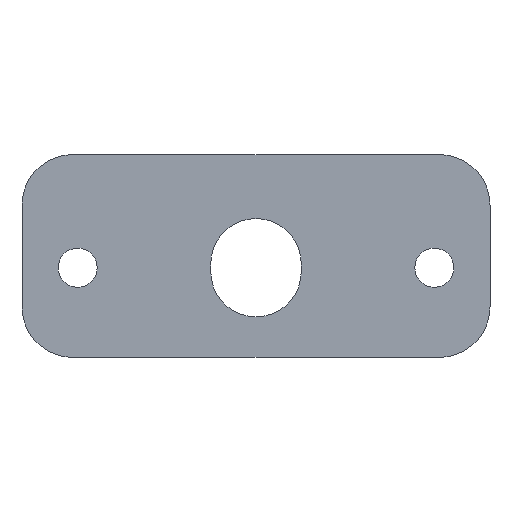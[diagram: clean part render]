
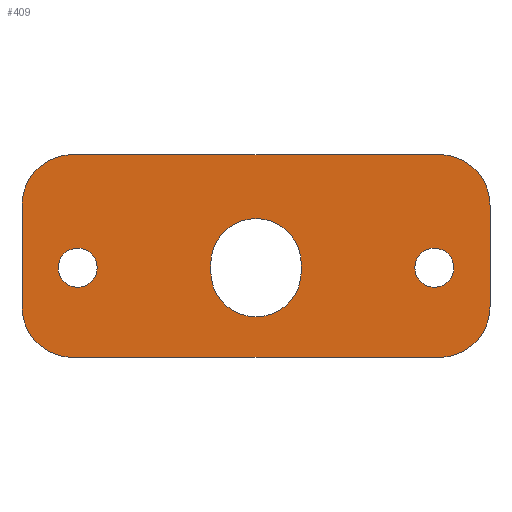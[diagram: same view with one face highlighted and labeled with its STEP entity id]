
A CAD part, front view. The second image highlights one B-rep face of the part: STEP entity #409.
In plain terms, the highlighted planar face has unit normal (0, -1, 0).
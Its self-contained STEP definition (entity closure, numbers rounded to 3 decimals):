
#1 = CARTESIAN_POINT ( 'NONE',  ( 11.75, 0., -3.25 ) ) ;
#6 = CARTESIAN_POINT ( 'NONE',  ( 0., 0., 2.4 ) ) ;
#7 = VERTEX_POINT ( 'NONE', #434 ) ;
#11 = VERTEX_POINT ( 'NONE', #325 ) ;
#12 = LINE ( 'NONE', #456, #281 ) ;
#18 = DIRECTION ( 'NONE',  ( 0., 0., 1. ) ) ;
#21 = VECTOR ( 'NONE', #640, 1000. ) ;
#23 = CARTESIAN_POINT ( 'NONE',  ( -11.75, 0., -6.5 ) ) ;
#30 = LINE ( 'NONE', #257, #21 ) ;
#32 = DIRECTION ( 'NONE',  ( 0., 0., 1. ) ) ;
#39 = CARTESIAN_POINT ( 'NONE',  ( 11.43, 0., 0.5 ) ) ;
#42 = CARTESIAN_POINT ( 'NONE',  ( -15., 0., -6.5 ) ) ;
#47 = CARTESIAN_POINT ( 'NONE',  ( 11.43, 0., -2. ) ) ;
#56 = ORIENTED_EDGE ( 'NONE', *, *, #98, .T. ) ;
#64 = VERTEX_POINT ( 'NONE', #540 ) ;
#67 = DIRECTION ( 'NONE',  ( 0., 1., 0. ) ) ;
#69 = CARTESIAN_POINT ( 'NONE',  ( -11.75, 0., 3.25 ) ) ;
#72 = CARTESIAN_POINT ( 'NONE',  ( -15., 0., 3.25 ) ) ;
#75 = EDGE_CURVE ( 'NONE', #115, #621, #30, .T. ) ;
#79 = CIRCLE ( 'NONE', #414, 1.25 ) ;
#85 = EDGE_CURVE ( 'NONE', #659, #115, #351, .T. ) ;
#88 = DIRECTION ( 'NONE',  ( 0., 1., 0. ) ) ;
#94 = CARTESIAN_POINT ( 'NONE',  ( -2.9, 0., -1. ) ) ;
#97 = LINE ( 'NONE', #140, #428 ) ;
#98 = EDGE_CURVE ( 'NONE', #11, #135, #97, .T. ) ;
#99 = EDGE_LOOP ( 'NONE', ( #339, #268 ) ) ;
#103 = VERTEX_POINT ( 'NONE', #47 ) ;
#105 = FACE_OUTER_BOUND ( 'NONE', #550, .T. ) ;
#107 = DIRECTION ( 'NONE',  ( 1., 0., 0. ) ) ;
#111 = CARTESIAN_POINT ( 'NONE',  ( 15., 0., -6.5 ) ) ;
#115 = VERTEX_POINT ( 'NONE', #94 ) ;
#119 = DIRECTION ( 'NONE',  ( 0., 0., 1. ) ) ;
#123 = DIRECTION ( 'NONE',  ( 0., 0., 1. ) ) ;
#125 = EDGE_LOOP ( 'NONE', ( #190, #561, #450, #326, #452 ) ) ;
#126 = CARTESIAN_POINT ( 'NONE',  ( 11.43, 0., -0.75 ) ) ;
#127 = EDGE_CURVE ( 'NONE', #607, #192, #690, .T. ) ;
#128 = VERTEX_POINT ( 'NONE', #6 ) ;
#129 = DIRECTION ( 'NONE',  ( 0., 0., 1. ) ) ;
#131 = ORIENTED_EDGE ( 'NONE', *, *, #343, .T. ) ;
#132 = CIRCLE ( 'NONE', #221, 1.25 ) ;
#134 = CARTESIAN_POINT ( 'NONE',  ( 11.75, 0., 3.25 ) ) ;
#135 = VERTEX_POINT ( 'NONE', #673 ) ;
#137 = LINE ( 'NONE', #290, #666 ) ;
#139 = VERTEX_POINT ( 'NONE', #267 ) ;
#140 = CARTESIAN_POINT ( 'NONE',  ( -15., 0., 6.5 ) ) ;
#141 = CIRCLE ( 'NONE', #270, 1.25 ) ;
#146 = DIRECTION ( 'NONE',  ( 0., 1., 0. ) ) ;
#160 = CARTESIAN_POINT ( 'NONE',  ( -11.75, 0., -3.25 ) ) ;
#162 = CIRCLE ( 'NONE', #197, 3.25 ) ;
#190 = ORIENTED_EDGE ( 'NONE', *, *, #85, .T. ) ;
#192 = VERTEX_POINT ( 'NONE', #23 ) ;
#197 = AXIS2_PLACEMENT_3D ( 'NONE', #1, #215, #399 ) ;
#198 = EDGE_CURVE ( 'NONE', #217, #11, #623, .T. ) ;
#209 = ORIENTED_EDGE ( 'NONE', *, *, #471, .T. ) ;
#212 = FACE_BOUND ( 'NONE', #628, .T. ) ;
#215 = DIRECTION ( 'NONE',  ( 0., -1., 0. ) ) ;
#217 = VERTEX_POINT ( 'NONE', #670 ) ;
#221 = AXIS2_PLACEMENT_3D ( 'NONE', #447, #307, #129 ) ;
#228 = EDGE_CURVE ( 'NONE', #558, #610, #141, .T. ) ;
#230 = DIRECTION ( 'NONE',  ( 0., 0., 1. ) ) ;
#239 = AXIS2_PLACEMENT_3D ( 'NONE', #492, #88, #547 ) ;
#241 = DIRECTION ( 'NONE',  ( 0., 0., 1. ) ) ;
#242 = DIRECTION ( 'NONE',  ( 0., -1., 0. ) ) ;
#253 = DIRECTION ( 'NONE',  ( 0., 0., 1. ) ) ;
#257 = CARTESIAN_POINT ( 'NONE',  ( -2.9, 0., -0.5 ) ) ;
#267 = CARTESIAN_POINT ( 'NONE',  ( 2.9, 0., -0.5 ) ) ;
#268 = ORIENTED_EDGE ( 'NONE', *, *, #674, .T. ) ;
#270 = AXIS2_PLACEMENT_3D ( 'NONE', #620, #67, #119 ) ;
#273 = ORIENTED_EDGE ( 'NONE', *, *, #335, .T. ) ;
#281 = VECTOR ( 'NONE', #18, 1000. ) ;
#290 = CARTESIAN_POINT ( 'NONE',  ( 2.9, 0., -0.5 ) ) ;
#291 = DIRECTION ( 'NONE',  ( 0., 1., 0. ) ) ;
#307 = DIRECTION ( 'NONE',  ( 0., 1., 0. ) ) ;
#309 = EDGE_CURVE ( 'NONE', #514, #607, #319, .T. ) ;
#319 = LINE ( 'NONE', #42, #331 ) ;
#321 = ORIENTED_EDGE ( 'NONE', *, *, #127, .T. ) ;
#325 = CARTESIAN_POINT ( 'NONE',  ( 11.75, 0., 6.5 ) ) ;
#326 = ORIENTED_EDGE ( 'NONE', *, *, #622, .T. ) ;
#329 = PLANE ( 'NONE',  #644 ) ;
#331 = VECTOR ( 'NONE', #487, 1000. ) ;
#335 = EDGE_CURVE ( 'NONE', #64, #7, #162, .T. ) ;
#339 = ORIENTED_EDGE ( 'NONE', *, *, #228, .T. ) ;
#343 = EDGE_CURVE ( 'NONE', #192, #64, #444, .T. ) ;
#351 = CIRCLE ( 'NONE', #239, 2.9 ) ;
#355 = DIRECTION ( 'NONE',  ( 0., -1., 0. ) ) ;
#368 = CARTESIAN_POINT ( 'NONE',  ( -15., 0., -3.25 ) ) ;
#370 = DIRECTION ( 'NONE',  ( -1., 0., 0. ) ) ;
#382 = CIRCLE ( 'NONE', #566, 1.25 ) ;
#398 = ORIENTED_EDGE ( 'NONE', *, *, #198, .T. ) ;
#399 = DIRECTION ( 'NONE',  ( 0., 0., 1. ) ) ;
#406 = DIRECTION ( 'NONE',  ( 0., 0., 1. ) ) ;
#409 = ADVANCED_FACE ( 'NONE', ( #714, #212, #658, #105 ), #329, .F. ) ;
#414 = AXIS2_PLACEMENT_3D ( 'NONE', #126, #291, #123 ) ;
#417 = DIRECTION ( 'NONE',  ( 0., 1., 0. ) ) ;
#424 = AXIS2_PLACEMENT_3D ( 'NONE', #69, #355, #406 ) ;
#428 = VECTOR ( 'NONE', #370, 1000. ) ;
#434 = CARTESIAN_POINT ( 'NONE',  ( 15., 0., -3.25 ) ) ;
#440 = EDGE_CURVE ( 'NONE', #135, #514, #692, .T. ) ;
#441 = DIRECTION ( 'NONE',  ( 0., 1., 0. ) ) ;
#444 = LINE ( 'NONE', #111, #609 ) ;
#446 = ORIENTED_EDGE ( 'NONE', *, *, #486, .T. ) ;
#447 = CARTESIAN_POINT ( 'NONE',  ( -11.43, 0., -0.75 ) ) ;
#450 = ORIENTED_EDGE ( 'NONE', *, *, #513, .T. ) ;
#452 = ORIENTED_EDGE ( 'NONE', *, *, #695, .T. ) ;
#456 = CARTESIAN_POINT ( 'NONE',  ( 15., 0., 6.5 ) ) ;
#458 = CIRCLE ( 'NONE', #679, 2.9 ) ;
#462 = CARTESIAN_POINT ( 'NONE',  ( -11.43, 0., 0.5 ) ) ;
#469 = CARTESIAN_POINT ( 'NONE',  ( 11.43, 0., -0.75 ) ) ;
#471 = EDGE_CURVE ( 'NONE', #639, #103, #382, .T. ) ;
#473 = CIRCLE ( 'NONE', #646, 2.9 ) ;
#486 = EDGE_CURVE ( 'NONE', #103, #639, #79, .T. ) ;
#487 = DIRECTION ( 'NONE',  ( 0., 0., -1. ) ) ;
#489 = CARTESIAN_POINT ( 'NONE',  ( 0., 0., -0.5 ) ) ;
#492 = CARTESIAN_POINT ( 'NONE',  ( 0., 0., -1. ) ) ;
#498 = CARTESIAN_POINT ( 'NONE',  ( 0., 0., 0. ) ) ;
#507 = DIRECTION ( 'NONE',  ( 0., -1., 0. ) ) ;
#513 = EDGE_CURVE ( 'NONE', #621, #128, #458, .T. ) ;
#514 = VERTEX_POINT ( 'NONE', #72 ) ;
#515 = DIRECTION ( 'NONE',  ( 0., 0., -1. ) ) ;
#527 = CARTESIAN_POINT ( 'NONE',  ( 0., 0., -0.5 ) ) ;
#530 = AXIS2_PLACEMENT_3D ( 'NONE', #160, #507, #669 ) ;
#540 = CARTESIAN_POINT ( 'NONE',  ( 11.75, 0., -6.5 ) ) ;
#547 = DIRECTION ( 'NONE',  ( 0., 0., 1. ) ) ;
#548 = EDGE_CURVE ( 'NONE', #7, #217, #12, .T. ) ;
#550 = EDGE_LOOP ( 'NONE', ( #131, #273, #696, #398, #56, #719, #585, #321 ) ) ;
#558 = VERTEX_POINT ( 'NONE', #462 ) ;
#561 = ORIENTED_EDGE ( 'NONE', *, *, #75, .T. ) ;
#565 = AXIS2_PLACEMENT_3D ( 'NONE', #134, #242, #253 ) ;
#566 = AXIS2_PLACEMENT_3D ( 'NONE', #469, #630, #241 ) ;
#585 = ORIENTED_EDGE ( 'NONE', *, *, #309, .T. ) ;
#593 = CARTESIAN_POINT ( 'NONE',  ( -2.9, 0., -0.5 ) ) ;
#607 = VERTEX_POINT ( 'NONE', #368 ) ;
#609 = VECTOR ( 'NONE', #107, 1000. ) ;
#610 = VERTEX_POINT ( 'NONE', #649 ) ;
#620 = CARTESIAN_POINT ( 'NONE',  ( -11.43, 0., -0.75 ) ) ;
#621 = VERTEX_POINT ( 'NONE', #593 ) ;
#622 = EDGE_CURVE ( 'NONE', #128, #139, #473, .T. ) ;
#623 = CIRCLE ( 'NONE', #565, 3.25 ) ;
#628 = EDGE_LOOP ( 'NONE', ( #209, #446 ) ) ;
#630 = DIRECTION ( 'NONE',  ( 0., 1., 0. ) ) ;
#639 = VERTEX_POINT ( 'NONE', #39 ) ;
#640 = DIRECTION ( 'NONE',  ( 0., 0., 1. ) ) ;
#642 = CARTESIAN_POINT ( 'NONE',  ( 2.9, 0., -1. ) ) ;
#644 = AXIS2_PLACEMENT_3D ( 'NONE', #498, #441, #660 ) ;
#646 = AXIS2_PLACEMENT_3D ( 'NONE', #489, #146, #32 ) ;
#649 = CARTESIAN_POINT ( 'NONE',  ( -11.43, 0., -2. ) ) ;
#658 = FACE_BOUND ( 'NONE', #125, .T. ) ;
#659 = VERTEX_POINT ( 'NONE', #642 ) ;
#660 = DIRECTION ( 'NONE',  ( 0., 0., 1. ) ) ;
#666 = VECTOR ( 'NONE', #515, 1000. ) ;
#669 = DIRECTION ( 'NONE',  ( 0., 0., 1. ) ) ;
#670 = CARTESIAN_POINT ( 'NONE',  ( 15., 0., 3.25 ) ) ;
#673 = CARTESIAN_POINT ( 'NONE',  ( -11.75, 0., 6.5 ) ) ;
#674 = EDGE_CURVE ( 'NONE', #610, #558, #132, .T. ) ;
#679 = AXIS2_PLACEMENT_3D ( 'NONE', #527, #417, #230 ) ;
#690 = CIRCLE ( 'NONE', #530, 3.25 ) ;
#692 = CIRCLE ( 'NONE', #424, 3.25 ) ;
#695 = EDGE_CURVE ( 'NONE', #139, #659, #137, .T. ) ;
#696 = ORIENTED_EDGE ( 'NONE', *, *, #548, .T. ) ;
#714 = FACE_BOUND ( 'NONE', #99, .T. ) ;
#719 = ORIENTED_EDGE ( 'NONE', *, *, #440, .T. ) ;
